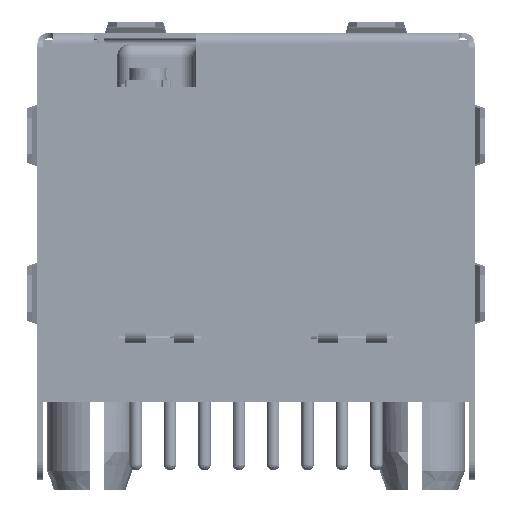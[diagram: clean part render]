
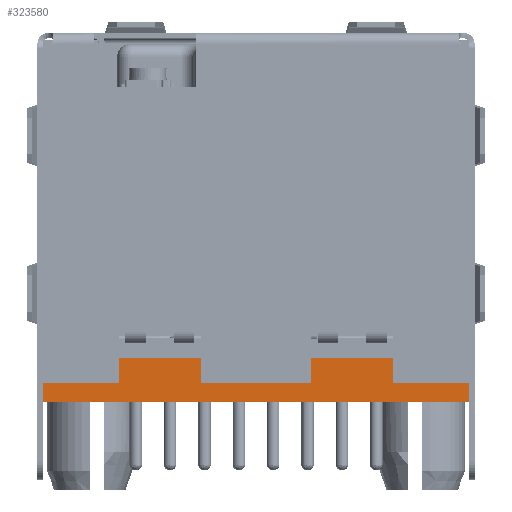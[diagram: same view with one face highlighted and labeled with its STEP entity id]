
A CAD part, front view. The second image highlights one B-rep face of the part: STEP entity #323580.
In plain terms, the highlighted planar face has unit normal (0, -1, 0).
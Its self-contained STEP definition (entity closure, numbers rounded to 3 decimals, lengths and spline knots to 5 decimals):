
#23934=PLANE('',#347318);
#42139=FACE_OUTER_BOUND('',#62796,.T.);
#62796=EDGE_LOOP('',(#300232,#300233,#300234,#300235,#300236,#300237,#300238,
#300239,#300240,#300241,#300242,#300243));
#99645=LINE('',#530557,#137315);
#99655=LINE('',#530581,#137325);
#99784=LINE('',#530861,#137454);
#99785=LINE('',#530863,#137455);
#99786=LINE('',#530865,#137456);
#99787=LINE('',#530867,#137457);
#99788=LINE('',#530869,#137458);
#99789=LINE('',#530871,#137459);
#99790=LINE('',#530873,#137460);
#99791=LINE('',#530874,#137461);
#99792=LINE('',#530876,#137462);
#99793=LINE('',#530877,#137463);
#137315=VECTOR('',#427410,0.3937);
#137325=VECTOR('',#427424,0.3937);
#137454=VECTOR('',#427643,0.3937);
#137455=VECTOR('',#427644,0.3937);
#137456=VECTOR('',#427645,0.3937);
#137457=VECTOR('',#427646,0.3937);
#137458=VECTOR('',#427647,0.3937);
#137459=VECTOR('',#427648,0.3937);
#137460=VECTOR('',#427649,0.3937);
#137461=VECTOR('',#427650,0.3937);
#137462=VECTOR('',#427651,0.3937);
#137463=VECTOR('',#427652,0.3937);
#170098=VERTEX_POINT('',#530554);
#170099=VERTEX_POINT('',#530556);
#170110=VERTEX_POINT('',#530578);
#170111=VERTEX_POINT('',#530580);
#170217=VERTEX_POINT('',#530860);
#170218=VERTEX_POINT('',#530862);
#170219=VERTEX_POINT('',#530864);
#170220=VERTEX_POINT('',#530866);
#170221=VERTEX_POINT('',#530868);
#170222=VERTEX_POINT('',#530870);
#170223=VERTEX_POINT('',#530872);
#170224=VERTEX_POINT('',#530875);
#213556=EDGE_CURVE('',#170098,#170099,#99645,.T.);
#213568=EDGE_CURVE('',#170110,#170111,#99655,.T.);
#213708=EDGE_CURVE('',#170099,#170217,#99784,.T.);
#213709=EDGE_CURVE('',#170098,#170218,#99785,.T.);
#213710=EDGE_CURVE('',#170218,#170219,#99786,.T.);
#213711=EDGE_CURVE('',#170219,#170220,#99787,.T.);
#213712=EDGE_CURVE('',#170221,#170220,#99788,.T.);
#213713=EDGE_CURVE('',#170221,#170222,#99789,.T.);
#213714=EDGE_CURVE('',#170222,#170223,#99790,.T.);
#213715=EDGE_CURVE('',#170223,#170111,#99791,.T.);
#213716=EDGE_CURVE('',#170224,#170110,#99792,.T.);
#213717=EDGE_CURVE('',#170217,#170224,#99793,.T.);
#300232=ORIENTED_EDGE('',*,*,#213708,.F.);
#300233=ORIENTED_EDGE('',*,*,#213556,.F.);
#300234=ORIENTED_EDGE('',*,*,#213709,.T.);
#300235=ORIENTED_EDGE('',*,*,#213710,.T.);
#300236=ORIENTED_EDGE('',*,*,#213711,.T.);
#300237=ORIENTED_EDGE('',*,*,#213712,.F.);
#300238=ORIENTED_EDGE('',*,*,#213713,.T.);
#300239=ORIENTED_EDGE('',*,*,#213714,.T.);
#300240=ORIENTED_EDGE('',*,*,#213715,.T.);
#300241=ORIENTED_EDGE('',*,*,#213568,.F.);
#300242=ORIENTED_EDGE('',*,*,#213716,.F.);
#300243=ORIENTED_EDGE('',*,*,#213717,.F.);
#323580=ADVANCED_FACE('',(#42139),#23934,.T.);
#347318=AXIS2_PLACEMENT_3D('',#530859,#427641,#427642);
#427410=DIRECTION('',(-1.,0.,0.));
#427424=DIRECTION('',(-1.,0.,0.));
#427641=DIRECTION('center_axis',(0.,-1.,0.));
#427642=DIRECTION('ref_axis',(0.,0.,-1.));
#427643=DIRECTION('',(0.,0.,1.));
#427644=DIRECTION('',(0.,0.,1.));
#427645=DIRECTION('',(1.,0.,0.));
#427646=DIRECTION('',(0.,0.,-1.));
#427647=DIRECTION('',(-1.,0.,0.));
#427648=DIRECTION('',(0.,0.,1.));
#427649=DIRECTION('',(1.,0.,0.));
#427650=DIRECTION('',(0.,0.,-1.));
#427651=DIRECTION('',(0.,0.,-1.));
#427652=DIRECTION('',(1.,0.,0.));
#530554=CARTESIAN_POINT('',(-0.20024,-0.599,-0.063));
#530556=CARTESIAN_POINT('',(-0.31,-0.599,-0.063));
#530557=CARTESIAN_POINT('',(0.31,-0.599,-0.063));
#530578=CARTESIAN_POINT('',(0.31,-0.599,-0.063));
#530580=CARTESIAN_POINT('',(0.2,-0.599,-0.063));
#530581=CARTESIAN_POINT('',(0.31,-0.599,-0.063));
#530859=CARTESIAN_POINT('Origin',(0.,-0.599,
0.01575));
#530860=CARTESIAN_POINT('',(-0.31,-0.599,0.0315));
#530861=CARTESIAN_POINT('',(-0.31,-0.599,0.00787));
#530862=CARTESIAN_POINT('',(-0.20024,-0.599,-0.033));
#530863=CARTESIAN_POINT('',(-0.20024,-0.599,-0.02363));
#530864=CARTESIAN_POINT('',(-0.05024,-0.599,-0.033));
#530865=CARTESIAN_POINT('',(0.,-0.599,-0.033));
#530866=CARTESIAN_POINT('',(-0.05024,-0.599,-0.063));
#530867=CARTESIAN_POINT('',(-0.05024,-0.599,-0.02363));
#530868=CARTESIAN_POINT('',(0.05,-0.599,-0.063));
#530869=CARTESIAN_POINT('',(0.31,-0.599,-0.063));
#530870=CARTESIAN_POINT('',(0.05,-0.599,-0.033));
#530871=CARTESIAN_POINT('',(0.05,-0.599,-0.02363));
#530872=CARTESIAN_POINT('',(0.2,-0.599,-0.033));
#530873=CARTESIAN_POINT('',(0.,-0.599,-0.033));
#530874=CARTESIAN_POINT('',(0.2,-0.599,-0.02363));
#530875=CARTESIAN_POINT('',(0.31,-0.599,0.0315));
#530876=CARTESIAN_POINT('',(0.31,-0.599,0.));
#530877=CARTESIAN_POINT('',(-0.31,-0.599,0.0315));
